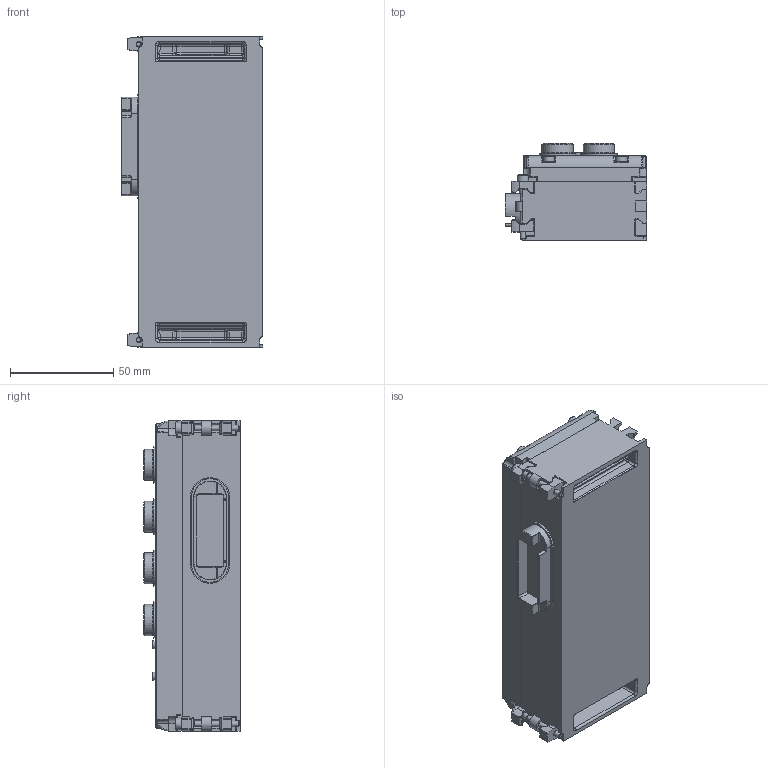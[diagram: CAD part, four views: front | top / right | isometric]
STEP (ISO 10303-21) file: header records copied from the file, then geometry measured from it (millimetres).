
FILE_DESCRIPTION (( 'STEP AP214' ), '1' );
FILE_NAME ('MIO67A-DG-xx-01.STEP', '2019-07-10T15:09:55', ( 'user' ), ( '' ), 'SwSTEP 2.0', 'SolidWorks 2014', '' );
FILE_SCHEMA (( 'AUTOMOTIVE_DESIGN' ));
Length unit declared in the file: millimetre
Products named in the file (1): MIO67A-DG-xx-01
Bounding box: 68.6 x 46.83 x 150 mm (x, y, z)
Volume: 343245.7 mm3; surface area: 82815.1 mm2
Topology: 40 solids, 40 shells, 1936 faces, 5339 edges, 3813 vertices
Faces by surface type: plane 807, cylinder 502, cone 282, torus 170, bspline 139, sphere 36
Full cylindrical faces by diameter (mm): 2.2 x2, 2.4 x18, 2.6 x4, 3 x4, 3.325 x18, 3.5 x18, 3.8 x2, 4.5 x2, 4.65 x4, 4.7 x2, 5.5 x8, 11.035 x8, 12.2 x8, 14.3 x8, 14.5 x8, 15.1 x8, 17.5 x8
Entity records: 96878 total; most frequent: CARTESIAN_POINT 29750, ORIENTED_EDGE 9274, DIRECTION 8743, EDGE_CURVE 4637, VERTEX_POINT 3604, AXIS2_PLACEMENT_3D 3296, EDGE_LOOP 2777, LINE 2151
